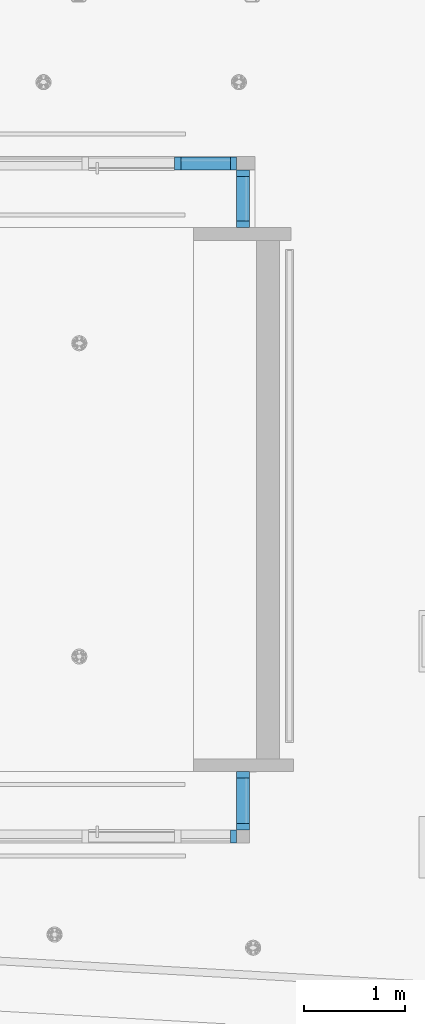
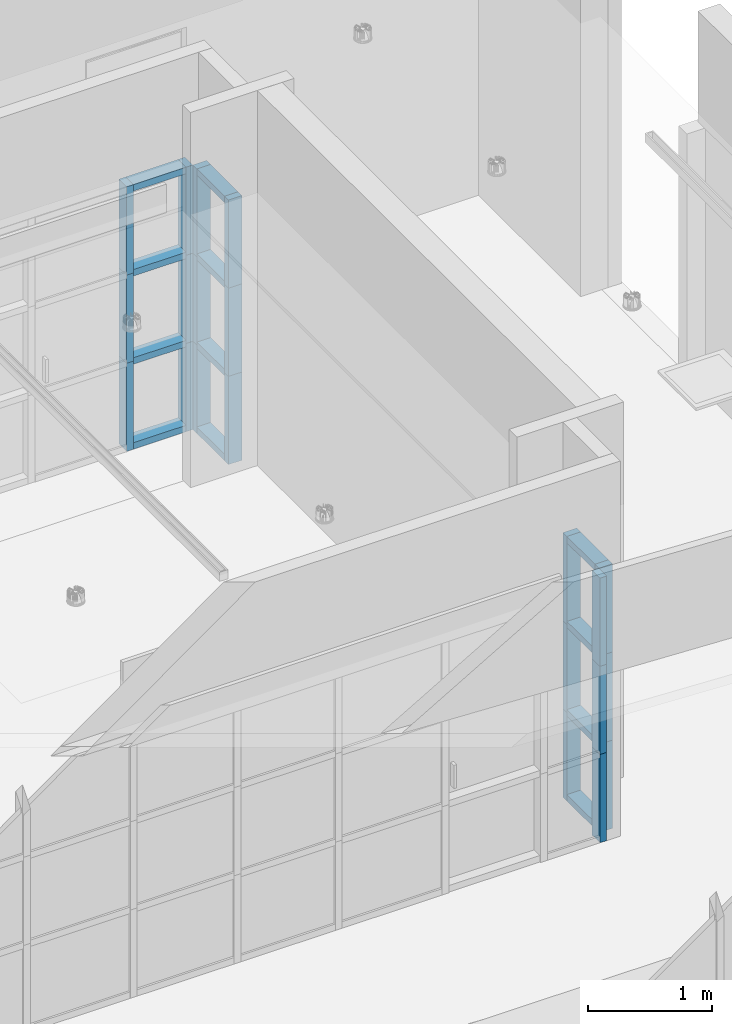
# One storey, part 10 of 108: 33 members, 4 elements without a shape of their own.
"""IFC4 building model written with IfcOpenShell, lengths in feet."""

from ifc_helpers import new_model, entity, si_unit, converted_unit, derived_unit, direction, frame, origin, origin_2d_with_axis, place, context, subcontext, project, spatial, rectangle, extrude, source, transform, mapped, material, material_profile, profile_set, profile_usage, type_object, type_shapes, element, aggregate, save


model = new_model("IFC4")

# Units and contexts
model_context = context("Model", 3, precision=0.0001, world=origin(), true_north=direction((6.12303176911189e-17, 1.0)))
body_context = subcontext(model_context, "Body", "Model", "MODEL_VIEW")
ifc_project = project(units=[converted_unit("LENGTHUNIT", "FOOT", entity("IfcRatioMeasure", 0.3048), si_unit("LENGTHUNIT", "METRE"), dimensions=[1, 0, 0, 0, 0, 0, 0]), converted_unit("AREAUNIT", "SQUARE FOOT", entity("IfcRatioMeasure", 0.09290304), si_unit("AREAUNIT", "SQUARE_METRE"), dimensions=[2, 0, 0, 0, 0, 0, 0]), converted_unit("VOLUMEUNIT", "CUBIC FOOT", entity("IfcRatioMeasure", 0.028316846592), si_unit("VOLUMEUNIT", "CUBIC_METRE"), dimensions=[3, 0, 0, 0, 0, 0, 0]), converted_unit("PLANEANGLEUNIT", "DEGREE", entity("IfcRatioMeasure", 0.0174532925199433), si_unit("PLANEANGLEUNIT", "RADIAN"), dimensions=[0, 0, 0, 0, 0, 0, 0]), si_unit("MASSUNIT", "GRAM", prefix="KILO"), derived_unit("MASSDENSITYUNIT", [(si_unit("MASSUNIT", "GRAM", prefix="KILO"), 1), (si_unit("LENGTHUNIT", "METRE"), -3)]), si_unit("TIMEUNIT", "SECOND"), si_unit("FREQUENCYUNIT", "HERTZ"), si_unit("THERMODYNAMICTEMPERATUREUNIT", "DEGREE_CELSIUS"), derived_unit("THERMALTRANSMITTANCEUNIT", [(si_unit("MASSUNIT", "GRAM", prefix="KILO"), 1), (si_unit("THERMODYNAMICTEMPERATUREUNIT", "KELVIN"), -1), (si_unit("TIMEUNIT", "SECOND"), -3)]), derived_unit("VOLUMETRICFLOWRATEUNIT", [(si_unit("LENGTHUNIT", "METRE"), 3), (si_unit("TIMEUNIT", "SECOND"), -1)]), si_unit("ELECTRICCURRENTUNIT", "AMPERE"), si_unit("ELECTRICVOLTAGEUNIT", "VOLT"), si_unit("POWERUNIT", "WATT"), si_unit("FORCEUNIT", "NEWTON"), si_unit("ILLUMINANCEUNIT", "LUX"), si_unit("LUMINOUSFLUXUNIT", "LUMEN"), si_unit("LUMINOUSINTENSITYUNIT", "CANDELA"), derived_unit("USERDEFINED", [(si_unit("MASSUNIT", "GRAM", prefix="KILO"), -1), (si_unit("LENGTHUNIT", "METRE"), -2), (si_unit("TIMEUNIT", "SECOND"), 3), (si_unit("LUMINOUSFLUXUNIT", "LUMEN"), 1)]), derived_unit("LINEARVELOCITYUNIT", [(si_unit("LENGTHUNIT", "METRE"), 1), (si_unit("TIMEUNIT", "SECOND"), -1)]), si_unit("PRESSUREUNIT", "PASCAL"), derived_unit("USERDEFINED", [(si_unit("LENGTHUNIT", "METRE"), -2), (si_unit("MASSUNIT", "GRAM", prefix="KILO"), 1), (si_unit("TIMEUNIT", "SECOND"), -2)])], contexts=[model_context])

# Site, building, storey
site_placement = place(None, origin())
site = spatial("IfcSite", under=ifc_project, at=site_placement, Name="Default", CompositionType="ELEMENT")
building_placement = place(site_placement, origin())
building = spatial("IfcBuilding", under=site, at=building_placement, CompositionType="ELEMENT")
storey_placement = place(building_placement, frame((0.0, 0.0, 168.0)))
storey = spatial("IfcBuildingStorey", under=building, at=storey_placement, Name="Level 15", CompositionType="ELEMENT", Elevation=168.0)

# Curtain wall, members
curtain_wall_type = type_object("IfcCurtainWallType", Name="Curtain Wall:Storefront 02", PredefinedType="NOTDEFINED")
curtain_wall_1_placement = place(storey_placement, frame((0.0, 0.0, -168.0)))
curtain_wall_1 = element("IfcCurtainWall", 1, at=curtain_wall_1_placement, inside=storey, type_object=curtain_wall_type, Name="Curtain Wall:Storefront 02", ObjectType="Curtain Wall:Storefront 02", PredefinedType="NOTDEFINED")
ifc_material = material(Name="Aluminum", Category="Metal")
ifc_material_profile = material_profile(ifc_material, rectangle(XDim=0.416666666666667, YDim=0.208333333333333, at=origin_2d_with_axis()), Name="2.5\" x 5\" rectangular")
ifc_profile_set = profile_set([ifc_material_profile], Name="2.5\" x 5\" rectangular")
ifc_profile_usage_1 = profile_usage(ifc_profile_set)
member_type_1 = type_object("IfcMemberType", Name="2.5\" x 5\" rectangular", PredefinedType="MEMBER", material=ifc_profile_set)
shared_shape_1 = source(origin(), body_context, "Body", "SweptSolid", [
    extrude(rectangle(XDim=0.416666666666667, YDim=0.208333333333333, at=origin_2d_with_axis()), frame((-0.104166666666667, 0.0, -1.47864472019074), z_axis=(0.0, 0.0, 1.0), x_axis=(0.0, -1.0, 0.0)), (0.0, 0.0, 1.0), 1.47864472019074),
])
type_shapes(member_type_1, [shared_shape_1])
member_1_placement = place(storey_placement, frame((48.8802019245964, -11.4636036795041, 8.52282482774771), z_axis=(0.0, -1.0, 0.0), x_axis=(0.0, 0.0, 1.0)))
member_1 = element("IfcMember", 2, at=member_1_placement, type_object=member_type_1, material=ifc_profile_usage_1, Name="Rectangular Mullion:2.5\" x 5\" rectangular", ObjectType="Rectangular Mullion:2.5\" x 5\" rectangular", PredefinedType="MULLION", context=body_context, shape_type="MappedRepresentation", body=[
    mapped(shared_shape_1, transform((0.0, 0.0, 0.0), scale=1.0)),
])
ifc_profile_usage_2 = profile_usage(ifc_profile_set)
member_type_2 = type_object("IfcMemberType", Name="2.5\" x 5\" rectangular", PredefinedType="MEMBER", material=ifc_profile_set)
shared_shape_2 = source(origin(), body_context, "Body", "SweptSolid", [
    extrude(rectangle(XDim=0.416666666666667, YDim=0.208333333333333, at=origin_2d_with_axis()), frame((-0.104166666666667, 0.0, -1.47864472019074), z_axis=(0.0, 0.0, 1.0), x_axis=(0.0, -1.0, 0.0)), (0.0, 0.0, 1.0), 1.47864472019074),
])
type_shapes(member_type_2, [shared_shape_2])
member_2_placement = place(storey_placement, frame((48.8802019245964, -9.98495895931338, 0.0), z_axis=(0.0, 1.0, 0.0), x_axis=(0.0, 0.0, -1.0)))
member_2 = element("IfcMember", 3, at=member_2_placement, type_object=member_type_2, material=ifc_profile_usage_2, Name="Rectangular Mullion:2.5\" x 5\" rectangular", ObjectType="Rectangular Mullion:2.5\" x 5\" rectangular", PredefinedType="MULLION", context=body_context, shape_type="MappedRepresentation", body=[
    mapped(shared_shape_2, transform((0.0, 0.0, 0.0), scale=1.0)),
])
ifc_profile_usage_3 = profile_usage(ifc_profile_set)
member_type_3 = type_object("IfcMemberType", Name="2.5\" x 5\" rectangular", PredefinedType="MEMBER", material=ifc_profile_set)
shared_shape_3 = source(origin(), body_context, "Body", "SweptSolid", [
    extrude(rectangle(XDim=0.416666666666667, YDim=0.208333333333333, at=origin_2d_with_axis()), frame((-0.104166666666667, 0.0, -2.84094160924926), z_axis=(0.0, 0.0, 1.0), x_axis=(0.0, -1.0, 0.0)), (0.0, 0.0, 1.0), 2.84094160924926),
])
type_shapes(member_type_3, [shared_shape_3])
member_3_placement = place(storey_placement, frame((48.8802019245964, -11.6719370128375, 0.0), z_axis=(0.0, 0.0, -1.0), x_axis=(0.0, -1.0, 0.0)))
member_3 = element("IfcMember", 4, at=member_3_placement, type_object=member_type_3, material=ifc_profile_usage_3, Name="Rectangular Mullion:2.5\" x 5\" rectangular", ObjectType="Rectangular Mullion:2.5\" x 5\" rectangular", PredefinedType="MULLION", context=body_context, shape_type="MappedRepresentation", body=[
    mapped(shared_shape_3, transform((0.0, 0.0, 0.0), scale=1.0)),
])
ifc_profile_usage_4 = profile_usage(ifc_profile_set)
member_type_4 = type_object("IfcMemberType", Name="2.5\" x 5\" rectangular", PredefinedType="MEMBER", material=ifc_profile_set)
shared_shape_4 = source(origin(), body_context, "Body", "SweptSolid", [
    extrude(rectangle(XDim=0.416666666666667, YDim=0.208333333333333, at=origin_2d_with_axis()), frame((-0.104166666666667, 0.0, -2.84094160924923), z_axis=(0.0, 0.0, 1.0), x_axis=(0.0, -1.0, 0.0)), (0.0, 0.0, 1.0), 2.84094160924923),
])
type_shapes(member_type_4, [shared_shape_4])
member_4_placement = place(storey_placement, frame((48.8802019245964, -9.77662562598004, 8.52282482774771), z_axis=(0.0, 0.0, 1.0), x_axis=(0.0, 1.0, 0.0)))
member_4 = element("IfcMember", 5, at=member_4_placement, type_object=member_type_4, material=ifc_profile_usage_4, Name="Rectangular Mullion:2.5\" x 5\" rectangular", ObjectType="Rectangular Mullion:2.5\" x 5\" rectangular", PredefinedType="MULLION", context=body_context, shape_type="MappedRepresentation", body=[
    mapped(shared_shape_4, transform((0.0, 0.0, 0.0), scale=1.0)),
])

# Curtain wall, member
curtain_wall_2_placement = place(storey_placement, frame((0.0, 0.0, -168.0)))
curtain_wall_2 = element("IfcCurtainWall", 6, at=curtain_wall_2_placement, inside=storey, type_object=curtain_wall_type, Name="Curtain Wall:Storefront 02", ObjectType="Curtain Wall:Storefront 02", PredefinedType="NOTDEFINED")
ifc_profile_usage_5 = profile_usage(ifc_profile_set)
member_5_placement = place(storey_placement, frame((48.671868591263, -11.8802703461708, 8.52282482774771)))
member_5 = element("IfcMember", 7, at=member_5_placement, type_object=member_type_4, material=ifc_profile_usage_5, Name="Rectangular Mullion:2.5\" x 5\" rectangular", ObjectType="Rectangular Mullion:2.5\" x 5\" rectangular", PredefinedType="MULLION", context=body_context, shape_type="MappedRepresentation", body=[
    mapped(shared_shape_4, transform((0.0, 0.0, 0.0), scale=1.0)),
])

# Member
ifc_profile_usage_6 = profile_usage(ifc_profile_set)
member_type_5 = type_object("IfcMemberType", Name="2.5\" x 5\" rectangular", PredefinedType="MEMBER", material=ifc_profile_set)
shared_shape_5 = source(origin(), body_context, "Body", "SweptSolid", [
    extrude(rectangle(XDim=0.416666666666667, YDim=0.208333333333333, at=origin_2d_with_axis()), frame((-0.104166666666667, 0.0, -2.84094160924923), z_axis=(0.0, 0.0, 1.0), x_axis=(0.0, -1.0, 0.0)), (0.0, 0.0, 1.0), 2.84094160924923),
])
type_shapes(member_type_5, [shared_shape_5])
member_6_placement = place(storey_placement, frame((48.8802019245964, -11.6719370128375, 5.68188321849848), z_axis=(0.0, 0.0, -1.0), x_axis=(0.0, -1.0, 0.0)))
member_6 = element("IfcMember", 8, at=member_6_placement, type_object=member_type_5, material=ifc_profile_usage_6, Name="Rectangular Mullion:2.5\" x 5\" rectangular", ObjectType="Rectangular Mullion:2.5\" x 5\" rectangular", PredefinedType="MULLION", context=body_context, shape_type="MappedRepresentation", body=[
    mapped(shared_shape_5, transform((0.0, 0.0, 0.0), scale=1.0)),
])

ifc_profile_usage_7 = profile_usage(ifc_profile_set)
member_type_6 = type_object("IfcMemberType", Name="2.5\" x 5\" rectangular", PredefinedType="MEMBER", material=ifc_profile_set)
shared_shape_6 = source(origin(), body_context, "Body", "SweptSolid", [
    extrude(rectangle(XDim=0.416666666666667, YDim=0.208333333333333, at=origin_2d_with_axis()), frame((-0.104166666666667, 0.0, -2.84094160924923), z_axis=(0.0, 0.0, 1.0), x_axis=(0.0, -1.0, 0.0)), (0.0, 0.0, 1.0), 2.84094160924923),
])
type_shapes(member_type_6, [shared_shape_6])
member_7_placement = place(storey_placement, frame((48.8802019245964, -9.77662562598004, 5.68188321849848), z_axis=(0.0, 0.0, 1.0), x_axis=(0.0, 1.0, 0.0)))
member_7 = element("IfcMember", 9, at=member_7_placement, type_object=member_type_6, material=ifc_profile_usage_7, Name="Rectangular Mullion:2.5\" x 5\" rectangular", ObjectType="Rectangular Mullion:2.5\" x 5\" rectangular", PredefinedType="MULLION", context=body_context, shape_type="MappedRepresentation", body=[
    mapped(shared_shape_6, transform((0.0, 0.0, 0.0), scale=1.0)),
])

ifc_profile_usage_8 = profile_usage(ifc_profile_set)
member_8_placement = place(storey_placement, frame((48.671868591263, -11.8802703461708, 5.68188321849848)))
member_8 = element("IfcMember", 10, at=member_8_placement, type_object=member_type_6, material=ifc_profile_usage_8, Name="Rectangular Mullion:2.5\" x 5\" rectangular", ObjectType="Rectangular Mullion:2.5\" x 5\" rectangular", PredefinedType="MULLION", context=body_context, shape_type="MappedRepresentation", body=[
    mapped(shared_shape_6, transform((0.0, 0.0, 0.0), scale=1.0)),
])

ifc_profile_usage_9 = profile_usage(ifc_profile_set)
member_type_7 = type_object("IfcMemberType", Name="2.5\" x 5\" rectangular", PredefinedType="MEMBER", material=ifc_profile_set)
shared_shape_7 = source(origin(), body_context, "Body", "SweptSolid", [
    extrude(rectangle(XDim=0.416666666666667, YDim=0.208333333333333, at=origin_2d_with_axis()), frame((0.0, 0.0, -1.47864472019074), z_axis=(0.0, 0.0, 1.0), x_axis=(0.0, -1.0, 0.0)), (0.0, 0.0, 1.0), 1.47864472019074),
])
type_shapes(member_type_7, [shared_shape_7])
member_9_placement = place(storey_placement, frame((48.8802019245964, -11.4636036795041, 5.68188321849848), z_axis=(0.0, -1.0, 0.0), x_axis=(0.0, 0.0, 1.0)))
member_9 = element("IfcMember", 11, at=member_9_placement, type_object=member_type_7, material=ifc_profile_usage_9, Name="Rectangular Mullion:2.5\" x 5\" rectangular", ObjectType="Rectangular Mullion:2.5\" x 5\" rectangular", PredefinedType="MULLION", context=body_context, shape_type="MappedRepresentation", body=[
    mapped(shared_shape_7, transform((0.0, 0.0, 0.0), scale=1.0)),
])

ifc_profile_usage_10 = profile_usage(ifc_profile_set)
member_10_placement = place(storey_placement, frame((48.8802019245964, -11.4636036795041, 2.84094160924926), z_axis=(0.0, -1.0, 0.0), x_axis=(0.0, 0.0, 1.0)))
member_10 = element("IfcMember", 12, at=member_10_placement, type_object=member_type_7, material=ifc_profile_usage_10, Name="Rectangular Mullion:2.5\" x 5\" rectangular", ObjectType="Rectangular Mullion:2.5\" x 5\" rectangular", PredefinedType="MULLION", context=body_context, shape_type="MappedRepresentation", body=[
    mapped(shared_shape_7, transform((0.0, 0.0, 0.0), scale=1.0)),
])

ifc_profile_usage_11 = profile_usage(ifc_profile_set)
member_type_8 = type_object("IfcMemberType", Name="2.5\" x 5\" rectangular", PredefinedType="MEMBER", material=ifc_profile_set)
shared_shape_8 = source(origin(), body_context, "Body", "SweptSolid", [
    extrude(rectangle(XDim=0.416666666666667, YDim=0.208333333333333, at=origin_2d_with_axis()), frame((-0.104166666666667, 0.0, -2.84094160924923), z_axis=(0.0, 0.0, 1.0), x_axis=(0.0, -1.0, 0.0)), (0.0, 0.0, 1.0), 2.84094160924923),
])
type_shapes(member_type_8, [shared_shape_8])
member_11_placement = place(storey_placement, frame((48.8802019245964, -11.6719370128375, 2.84094160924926), z_axis=(0.0, 0.0, -1.0), x_axis=(0.0, -1.0, 0.0)))
member_11 = element("IfcMember", 13, at=member_11_placement, type_object=member_type_8, material=ifc_profile_usage_11, Name="Rectangular Mullion:2.5\" x 5\" rectangular", ObjectType="Rectangular Mullion:2.5\" x 5\" rectangular", PredefinedType="MULLION", context=body_context, shape_type="MappedRepresentation", body=[
    mapped(shared_shape_8, transform((0.0, 0.0, 0.0), scale=1.0)),
])

ifc_profile_usage_12 = profile_usage(ifc_profile_set)
member_type_9 = type_object("IfcMemberType", Name="2.5\" x 5\" rectangular", PredefinedType="MEMBER", material=ifc_profile_set)
shared_shape_9 = source(origin(), body_context, "Body", "SweptSolid", [
    extrude(rectangle(XDim=0.416666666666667, YDim=0.208333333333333, at=origin_2d_with_axis()), frame((-0.104166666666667, 0.0, -2.84094160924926), z_axis=(0.0, 0.0, 1.0), x_axis=(0.0, -1.0, 0.0)), (0.0, 0.0, 1.0), 2.84094160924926),
])
type_shapes(member_type_9, [shared_shape_9])
member_12_placement = place(storey_placement, frame((48.8802019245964, -9.77662562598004, 2.84094160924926), z_axis=(0.0, 0.0, 1.0), x_axis=(0.0, 1.0, 0.0)))
member_12 = element("IfcMember", 14, at=member_12_placement, type_object=member_type_9, material=ifc_profile_usage_12, Name="Rectangular Mullion:2.5\" x 5\" rectangular", ObjectType="Rectangular Mullion:2.5\" x 5\" rectangular", PredefinedType="MULLION", context=body_context, shape_type="MappedRepresentation", body=[
    mapped(shared_shape_9, transform((0.0, 0.0, 0.0), scale=1.0)),
])

aggregate(curtain_wall_1, [member_1, member_2, member_3, member_4, member_6, member_7, member_9, member_11, member_12, member_10])

ifc_profile_usage_13 = profile_usage(ifc_profile_set)
member_13_placement = place(storey_placement, frame((48.671868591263, -11.8802703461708, 2.84094160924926)))
member_13 = element("IfcMember", 15, at=member_13_placement, type_object=member_type_9, material=ifc_profile_usage_13, Name="Rectangular Mullion:2.5\" x 5\" rectangular", ObjectType="Rectangular Mullion:2.5\" x 5\" rectangular", PredefinedType="MULLION", context=body_context, shape_type="MappedRepresentation", body=[
    mapped(shared_shape_9, transform((0.0, 0.0, 0.0), scale=1.0)),
])

aggregate(curtain_wall_2, [member_5, member_8, member_13])

# Curtain wall, members
curtain_wall_3_placement = place(storey_placement, frame((0.0, 0.0, -168.0)))
curtain_wall_3 = element("IfcCurtainWall", 16, at=curtain_wall_3_placement, inside=storey, type_object=curtain_wall_type, Name="Curtain Wall:Storefront 02", ObjectType="Curtain Wall:Storefront 02", PredefinedType="NOTDEFINED")
ifc_profile_usage_14 = profile_usage(ifc_profile_set)
member_type_10 = type_object("IfcMemberType", Name="2.5\" x 5\" rectangular", PredefinedType="MEMBER", material=ifc_profile_set)
shared_shape_10 = source(origin(), body_context, "Body", "SweptSolid", [
    extrude(rectangle(XDim=0.416666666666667, YDim=0.208333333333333, at=origin_2d_with_axis()), frame((-0.104166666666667, 0.0, -1.45246849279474), z_axis=(0.0, 0.0, 1.0), x_axis=(0.0, -1.0, 0.0)), (0.0, 0.0, 1.0), 1.45246849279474),
])
type_shapes(member_type_10, [shared_shape_10])
member_14_placement = place(storey_placement, frame((48.8802019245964, 9.54398292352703, 8.52282482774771), z_axis=(0.0, 1.0, 0.0), x_axis=(0.0, 0.0, 1.0)))
member_14 = element("IfcMember", 17, at=member_14_placement, type_object=member_type_10, material=ifc_profile_usage_14, Name="Rectangular Mullion:2.5\" x 5\" rectangular", ObjectType="Rectangular Mullion:2.5\" x 5\" rectangular", PredefinedType="MULLION", context=body_context, shape_type="MappedRepresentation", body=[
    mapped(shared_shape_10, transform((0.0, 0.0, 0.0), scale=1.0)),
])
ifc_profile_usage_15 = profile_usage(ifc_profile_set)
member_type_11 = type_object("IfcMemberType", Name="2.5\" x 5\" rectangular", PredefinedType="MEMBER", material=ifc_profile_set)
shared_shape_11 = source(origin(), body_context, "Body", "SweptSolid", [
    extrude(rectangle(XDim=0.416666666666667, YDim=0.208333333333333, at=origin_2d_with_axis()), frame((-0.104166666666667, 0.0, -1.45246849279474), z_axis=(0.0, 0.0, 1.0), x_axis=(0.0, -1.0, 0.0)), (0.0, 0.0, 1.0), 1.45246849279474),
])
type_shapes(member_type_11, [shared_shape_11])
member_15_placement = place(storey_placement, frame((48.8802019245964, 8.09151443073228, 0.0), z_axis=(0.0, -1.0, 0.0), x_axis=(0.0, 0.0, -1.0)))
member_15 = element("IfcMember", 18, at=member_15_placement, type_object=member_type_11, material=ifc_profile_usage_15, Name="Rectangular Mullion:2.5\" x 5\" rectangular", ObjectType="Rectangular Mullion:2.5\" x 5\" rectangular", PredefinedType="MULLION", context=body_context, shape_type="MappedRepresentation", body=[
    mapped(shared_shape_11, transform((0.0, 0.0, 0.0), scale=1.0)),
])
ifc_profile_usage_16 = profile_usage(ifc_profile_set)
member_type_12 = type_object("IfcMemberType", Name="2.5\" x 5\" rectangular", PredefinedType="MEMBER", material=ifc_profile_set)
shared_shape_12 = source(origin(), body_context, "Body", "SweptSolid", [
    extrude(rectangle(XDim=0.416666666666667, YDim=0.208333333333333, at=origin_2d_with_axis()), frame((-0.104166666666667, 0.0, -2.84094160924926), z_axis=(0.0, 0.0, 1.0), x_axis=(0.0, -1.0, 0.0)), (0.0, 0.0, 1.0), 2.84094160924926),
])
type_shapes(member_type_12, [shared_shape_12])
member_16_placement = place(storey_placement, frame((48.8802019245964, 9.75231625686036, 0.0), z_axis=(0.0, 0.0, -1.0), x_axis=(0.0, 1.0, 0.0)))
member_16 = element("IfcMember", 19, at=member_16_placement, type_object=member_type_12, material=ifc_profile_usage_16, Name="Rectangular Mullion:2.5\" x 5\" rectangular", ObjectType="Rectangular Mullion:2.5\" x 5\" rectangular", PredefinedType="MULLION", context=body_context, shape_type="MappedRepresentation", body=[
    mapped(shared_shape_12, transform((0.0, 0.0, 0.0), scale=1.0)),
])
ifc_profile_usage_17 = profile_usage(ifc_profile_set)
member_type_13 = type_object("IfcMemberType", Name="2.5\" x 5\" rectangular", PredefinedType="MEMBER", material=ifc_profile_set)
shared_shape_13 = source(origin(), body_context, "Body", "SweptSolid", [
    extrude(rectangle(XDim=0.416666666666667, YDim=0.208333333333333, at=origin_2d_with_axis()), frame((-0.104166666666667, 0.0, -2.84094160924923), z_axis=(0.0, 0.0, 1.0), x_axis=(0.0, -1.0, 0.0)), (0.0, 0.0, 1.0), 2.84094160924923),
])
type_shapes(member_type_13, [shared_shape_13])
member_17_placement = place(storey_placement, frame((48.8802019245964, 7.88318109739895, 8.52282482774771), z_axis=(0.0, 0.0, 1.0), x_axis=(0.0, -1.0, 0.0)))
member_17 = element("IfcMember", 20, at=member_17_placement, type_object=member_type_13, material=ifc_profile_usage_17, Name="Rectangular Mullion:2.5\" x 5\" rectangular", ObjectType="Rectangular Mullion:2.5\" x 5\" rectangular", PredefinedType="MULLION", context=body_context, shape_type="MappedRepresentation", body=[
    mapped(shared_shape_13, transform((0.0, 0.0, 0.0), scale=1.0)),
])

# Curtain wall, member
curtain_wall_4_placement = place(storey_placement, frame((0.0, 0.0, -168.0)))
curtain_wall_4 = element("IfcCurtainWall", 21, at=curtain_wall_4_placement, inside=storey, type_object=curtain_wall_type, Name="Curtain Wall:Storefront 02", ObjectType="Curtain Wall:Storefront 02", PredefinedType="NOTDEFINED")
ifc_profile_usage_18 = profile_usage(ifc_profile_set)
member_18_placement = place(storey_placement, frame((48.6718685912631, 9.9606495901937, 8.52282482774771)))
member_18 = element("IfcMember", 22, at=member_18_placement, type_object=member_type_13, material=ifc_profile_usage_18, Name="Rectangular Mullion:2.5\" x 5\" rectangular", ObjectType="Rectangular Mullion:2.5\" x 5\" rectangular", PredefinedType="MULLION", context=body_context, shape_type="MappedRepresentation", body=[
    mapped(shared_shape_13, transform((0.0, 0.0, 0.0), scale=1.0)),
])

# Member
ifc_profile_usage_19 = profile_usage(ifc_profile_set)
member_type_14 = type_object("IfcMemberType", Name="2.5\" x 5\" rectangular", PredefinedType="MEMBER", material=ifc_profile_set)
shared_shape_14 = source(origin(), body_context, "Body", "SweptSolid", [
    extrude(rectangle(XDim=0.416666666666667, YDim=0.208333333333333, at=origin_2d_with_axis()), frame((-0.104166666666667, 0.0, -2.84094160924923), z_axis=(0.0, 0.0, 1.0), x_axis=(0.0, -1.0, 0.0)), (0.0, 0.0, 1.0), 2.84094160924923),
])
type_shapes(member_type_14, [shared_shape_14])
member_19_placement = place(storey_placement, frame((48.8802019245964, 9.75231625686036, 5.68188321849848), z_axis=(0.0, 0.0, -1.0), x_axis=(0.0, 1.0, 0.0)))
member_19 = element("IfcMember", 23, at=member_19_placement, type_object=member_type_14, material=ifc_profile_usage_19, Name="Rectangular Mullion:2.5\" x 5\" rectangular", ObjectType="Rectangular Mullion:2.5\" x 5\" rectangular", PredefinedType="MULLION", context=body_context, shape_type="MappedRepresentation", body=[
    mapped(shared_shape_14, transform((0.0, 0.0, 0.0), scale=1.0)),
])

ifc_profile_usage_20 = profile_usage(ifc_profile_set)
member_type_15 = type_object("IfcMemberType", Name="2.5\" x 5\" rectangular", PredefinedType="MEMBER", material=ifc_profile_set)
shared_shape_15 = source(origin(), body_context, "Body", "SweptSolid", [
    extrude(rectangle(XDim=0.416666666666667, YDim=0.208333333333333, at=origin_2d_with_axis()), frame((-0.104166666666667, 0.0, -2.84094160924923), z_axis=(0.0, 0.0, 1.0), x_axis=(0.0, -1.0, 0.0)), (0.0, 0.0, 1.0), 2.84094160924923),
])
type_shapes(member_type_15, [shared_shape_15])
member_20_placement = place(storey_placement, frame((48.8802019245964, 7.88318109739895, 5.68188321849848), z_axis=(0.0, 0.0, 1.0), x_axis=(0.0, -1.0, 0.0)))
member_20 = element("IfcMember", 24, at=member_20_placement, type_object=member_type_15, material=ifc_profile_usage_20, Name="Rectangular Mullion:2.5\" x 5\" rectangular", ObjectType="Rectangular Mullion:2.5\" x 5\" rectangular", PredefinedType="MULLION", context=body_context, shape_type="MappedRepresentation", body=[
    mapped(shared_shape_15, transform((0.0, 0.0, 0.0), scale=1.0)),
])

ifc_profile_usage_21 = profile_usage(ifc_profile_set)
member_21_placement = place(storey_placement, frame((48.6718685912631, 9.9606495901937, 5.68188321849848)))
member_21 = element("IfcMember", 25, at=member_21_placement, type_object=member_type_15, material=ifc_profile_usage_21, Name="Rectangular Mullion:2.5\" x 5\" rectangular", ObjectType="Rectangular Mullion:2.5\" x 5\" rectangular", PredefinedType="MULLION", context=body_context, shape_type="MappedRepresentation", body=[
    mapped(shared_shape_15, transform((0.0, 0.0, 0.0), scale=1.0)),
])

ifc_profile_usage_22 = profile_usage(ifc_profile_set)
member_type_16 = type_object("IfcMemberType", Name="2.5\" x 5\" rectangular", PredefinedType="MEMBER", material=ifc_profile_set)
shared_shape_16 = source(origin(), body_context, "Body", "SweptSolid", [
    extrude(rectangle(XDim=0.416666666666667, YDim=0.208333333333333, at=origin_2d_with_axis()), frame((0.0, 0.0, -1.45246849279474), z_axis=(0.0, 0.0, 1.0), x_axis=(0.0, -1.0, 0.0)), (0.0, 0.0, 1.0), 1.45246849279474),
])
type_shapes(member_type_16, [shared_shape_16])
member_22_placement = place(storey_placement, frame((48.8802019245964, 9.54398292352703, 5.68188321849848), z_axis=(0.0, 1.0, 0.0), x_axis=(0.0, 0.0, 1.0)))
member_22 = element("IfcMember", 26, at=member_22_placement, type_object=member_type_16, material=ifc_profile_usage_22, Name="Rectangular Mullion:2.5\" x 5\" rectangular", ObjectType="Rectangular Mullion:2.5\" x 5\" rectangular", PredefinedType="MULLION", context=body_context, shape_type="MappedRepresentation", body=[
    mapped(shared_shape_16, transform((0.0, 0.0, 0.0), scale=1.0)),
])

ifc_profile_usage_23 = profile_usage(ifc_profile_set)
member_23_placement = place(storey_placement, frame((48.8802019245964, 9.54398292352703, 2.84094160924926), z_axis=(0.0, 1.0, 0.0), x_axis=(0.0, 0.0, 1.0)))
member_23 = element("IfcMember", 27, at=member_23_placement, type_object=member_type_16, material=ifc_profile_usage_23, Name="Rectangular Mullion:2.5\" x 5\" rectangular", ObjectType="Rectangular Mullion:2.5\" x 5\" rectangular", PredefinedType="MULLION", context=body_context, shape_type="MappedRepresentation", body=[
    mapped(shared_shape_16, transform((0.0, 0.0, 0.0), scale=1.0)),
])

ifc_profile_usage_24 = profile_usage(ifc_profile_set)
member_type_17 = type_object("IfcMemberType", Name="2.5\" x 5\" rectangular", PredefinedType="MEMBER", material=ifc_profile_set)
shared_shape_17 = source(origin(), body_context, "Body", "SweptSolid", [
    extrude(rectangle(XDim=0.416666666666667, YDim=0.208333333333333, at=origin_2d_with_axis()), frame((-0.104166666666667, 0.0, -2.84094160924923), z_axis=(0.0, 0.0, 1.0), x_axis=(0.0, -1.0, 0.0)), (0.0, 0.0, 1.0), 2.84094160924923),
])
type_shapes(member_type_17, [shared_shape_17])
member_24_placement = place(storey_placement, frame((48.8802019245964, 9.75231625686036, 2.84094160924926), z_axis=(0.0, 0.0, -1.0), x_axis=(0.0, 1.0, 0.0)))
member_24 = element("IfcMember", 28, at=member_24_placement, type_object=member_type_17, material=ifc_profile_usage_24, Name="Rectangular Mullion:2.5\" x 5\" rectangular", ObjectType="Rectangular Mullion:2.5\" x 5\" rectangular", PredefinedType="MULLION", context=body_context, shape_type="MappedRepresentation", body=[
    mapped(shared_shape_17, transform((0.0, 0.0, 0.0), scale=1.0)),
])

ifc_profile_usage_25 = profile_usage(ifc_profile_set)
member_type_18 = type_object("IfcMemberType", Name="2.5\" x 5\" rectangular", PredefinedType="MEMBER", material=ifc_profile_set)
shared_shape_18 = source(origin(), body_context, "Body", "SweptSolid", [
    extrude(rectangle(XDim=0.416666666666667, YDim=0.208333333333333, at=origin_2d_with_axis()), frame((-0.104166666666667, 0.0, -2.84094160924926), z_axis=(0.0, 0.0, 1.0), x_axis=(0.0, -1.0, 0.0)), (0.0, 0.0, 1.0), 2.84094160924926),
])
type_shapes(member_type_18, [shared_shape_18])
member_25_placement = place(storey_placement, frame((48.8802019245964, 7.88318109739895, 2.84094160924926), z_axis=(0.0, 0.0, 1.0), x_axis=(0.0, -1.0, 0.0)))
member_25 = element("IfcMember", 29, at=member_25_placement, type_object=member_type_18, material=ifc_profile_usage_25, Name="Rectangular Mullion:2.5\" x 5\" rectangular", ObjectType="Rectangular Mullion:2.5\" x 5\" rectangular", PredefinedType="MULLION", context=body_context, shape_type="MappedRepresentation", body=[
    mapped(shared_shape_18, transform((0.0, 0.0, 0.0), scale=1.0)),
])

aggregate(curtain_wall_3, [member_14, member_15, member_16, member_17, member_19, member_20, member_22, member_24, member_25, member_23])

ifc_profile_usage_26 = profile_usage(ifc_profile_set)
member_26_placement = place(storey_placement, frame((48.6718685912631, 9.9606495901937, 2.84094160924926)))
member_26 = element("IfcMember", 30, at=member_26_placement, type_object=member_type_18, material=ifc_profile_usage_26, Name="Rectangular Mullion:2.5\" x 5\" rectangular", ObjectType="Rectangular Mullion:2.5\" x 5\" rectangular", PredefinedType="MULLION", context=body_context, shape_type="MappedRepresentation", body=[
    mapped(shared_shape_18, transform((0.0, 0.0, 0.0), scale=1.0)),
])

ifc_profile_usage_27 = profile_usage(ifc_profile_set)
member_type_19 = type_object("IfcMemberType", Name="2.5\" x 5\" rectangular", PredefinedType="MEMBER", material=ifc_profile_set)
shared_shape_19 = source(origin(), body_context, "Body", "SweptSolid", [
    extrude(rectangle(XDim=0.416666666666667, YDim=0.208333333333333, at=origin_2d_with_axis()), frame((-0.104166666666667, 0.0, -1.60416666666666), z_axis=(0.0, 0.0, 1.0), x_axis=(0.0, -1.0, 0.0)), (0.0, 0.0, 1.0), 1.60416666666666),
])
type_shapes(member_type_19, [shared_shape_19])
member_27_placement = place(storey_placement, frame((48.4635352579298, 9.9606495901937, 0.0), z_axis=(1.0, 0.0, 0.0), x_axis=(0.0, 0.0, -1.0)))
member_27 = element("IfcMember", 31, at=member_27_placement, type_object=member_type_19, material=ifc_profile_usage_27, Name="Rectangular Mullion:2.5\" x 5\" rectangular", ObjectType="Rectangular Mullion:2.5\" x 5\" rectangular", PredefinedType="MULLION", context=body_context, shape_type="MappedRepresentation", body=[
    mapped(shared_shape_19, transform((0.0, 0.0, 0.0), scale=1.0)),
])

ifc_profile_usage_28 = profile_usage(ifc_profile_set)
member_type_20 = type_object("IfcMemberType", Name="2.5\" x 5\" rectangular", PredefinedType="MEMBER", material=ifc_profile_set)
shared_shape_20 = source(origin(), body_context, "Body", "SweptSolid", [
    extrude(rectangle(XDim=0.416666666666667, YDim=0.208333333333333, at=origin_2d_with_axis()), frame((0.0, 0.0, -2.84094160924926), z_axis=(0.0, 0.0, 1.0), x_axis=(0.0, -1.0, 0.0)), (0.0, 0.0, 1.0), 2.84094160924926),
])
type_shapes(member_type_20, [shared_shape_20])
member_28_placement = place(storey_placement, frame((46.7552019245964, 9.9606495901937, 0.0), z_axis=(0.0, 0.0, -1.0), x_axis=(-1.0, 0.0, 0.0)))
member_28 = element("IfcMember", 32, at=member_28_placement, type_object=member_type_20, material=ifc_profile_usage_28, Name="Rectangular Mullion:2.5\" x 5\" rectangular", ObjectType="Rectangular Mullion:2.5\" x 5\" rectangular", PredefinedType="MULLION", context=body_context, shape_type="MappedRepresentation", body=[
    mapped(shared_shape_20, transform((0.0, 0.0, 0.0), scale=1.0)),
])

ifc_profile_usage_29 = profile_usage(ifc_profile_set)
member_type_21 = type_object("IfcMemberType", Name="2.5\" x 5\" rectangular", PredefinedType="MEMBER", material=ifc_profile_set)
shared_shape_21 = source(origin(), body_context, "Body", "SweptSolid", [
    extrude(rectangle(XDim=0.416666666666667, YDim=0.208333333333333, at=origin_2d_with_axis()), frame((-0.104166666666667, 0.0, -1.60416666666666), z_axis=(0.0, 0.0, 1.0), x_axis=(0.0, -1.0, 0.0)), (0.0, 0.0, 1.0), 1.60416666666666),
])
type_shapes(member_type_21, [shared_shape_21])
member_29_placement = place(storey_placement, frame((46.8593685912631, 9.9606495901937, 8.52282482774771), z_axis=(-1.0, 0.0, 0.0), x_axis=(0.0, 0.0, 1.0)))
member_29 = element("IfcMember", 33, at=member_29_placement, type_object=member_type_21, material=ifc_profile_usage_29, Name="Rectangular Mullion:2.5\" x 5\" rectangular", ObjectType="Rectangular Mullion:2.5\" x 5\" rectangular", PredefinedType="MULLION", context=body_context, shape_type="MappedRepresentation", body=[
    mapped(shared_shape_21, transform((0.0, 0.0, 0.0), scale=1.0)),
])

ifc_profile_usage_30 = profile_usage(ifc_profile_set)
member_type_22 = type_object("IfcMemberType", Name="2.5\" x 5\" rectangular", PredefinedType="MEMBER", material=ifc_profile_set)
shared_shape_22 = source(origin(), body_context, "Body", "SweptSolid", [
    extrude(rectangle(XDim=0.416666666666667, YDim=0.208333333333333, at=origin_2d_with_axis()), frame((0.0, 0.0, -1.60416666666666), z_axis=(0.0, 0.0, 1.0), x_axis=(0.0, -1.0, 0.0)), (0.0, 0.0, 1.0), 1.60416666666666),
])
type_shapes(member_type_22, [shared_shape_22])
member_30_placement = place(storey_placement, frame((46.8593685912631, 9.9606495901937, 5.68188321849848), z_axis=(-1.0, 0.0, 0.0), x_axis=(0.0, 0.0, 1.0)))
member_30 = element("IfcMember", 34, at=member_30_placement, type_object=member_type_22, material=ifc_profile_usage_30, Name="Rectangular Mullion:2.5\" x 5\" rectangular", ObjectType="Rectangular Mullion:2.5\" x 5\" rectangular", PredefinedType="MULLION", context=body_context, shape_type="MappedRepresentation", body=[
    mapped(shared_shape_22, transform((0.0, 0.0, 0.0), scale=1.0)),
])

ifc_profile_usage_31 = profile_usage(ifc_profile_set)
member_31_placement = place(storey_placement, frame((46.8593685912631, 9.9606495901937, 2.84094160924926), z_axis=(-1.0, 0.0, 0.0), x_axis=(0.0, 0.0, 1.0)))
member_31 = element("IfcMember", 35, at=member_31_placement, type_object=member_type_22, material=ifc_profile_usage_31, Name="Rectangular Mullion:2.5\" x 5\" rectangular", ObjectType="Rectangular Mullion:2.5\" x 5\" rectangular", PredefinedType="MULLION", context=body_context, shape_type="MappedRepresentation", body=[
    mapped(shared_shape_22, transform((0.0, 0.0, 0.0), scale=1.0)),
])

ifc_profile_usage_32 = profile_usage(ifc_profile_set)
member_type_23 = type_object("IfcMemberType", Name="2.5\" x 5\" rectangular", PredefinedType="MEMBER", material=ifc_profile_set)
shared_shape_23 = source(origin(), body_context, "Body", "SweptSolid", [
    extrude(rectangle(XDim=0.416666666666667, YDim=0.208333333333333, at=origin_2d_with_axis()), frame((0.0, 0.0, -2.84094160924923), z_axis=(0.0, 0.0, 1.0), x_axis=(0.0, -1.0, 0.0)), (0.0, 0.0, 1.0), 2.84094160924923),
])
type_shapes(member_type_23, [shared_shape_23])
member_32_placement = place(storey_placement, frame((46.7552019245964, 9.9606495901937, 5.68188321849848), z_axis=(0.0, 0.0, -1.0), x_axis=(-1.0, 0.0, 0.0)))
member_32 = element("IfcMember", 36, at=member_32_placement, type_object=member_type_23, material=ifc_profile_usage_32, Name="Rectangular Mullion:2.5\" x 5\" rectangular", ObjectType="Rectangular Mullion:2.5\" x 5\" rectangular", PredefinedType="MULLION", context=body_context, shape_type="MappedRepresentation", body=[
    mapped(shared_shape_23, transform((0.0, 0.0, 0.0), scale=1.0)),
])

ifc_profile_usage_33 = profile_usage(ifc_profile_set)
member_type_24 = type_object("IfcMemberType", Name="2.5\" x 5\" rectangular", PredefinedType="MEMBER", material=ifc_profile_set)
shared_shape_24 = source(origin(), body_context, "Body", "SweptSolid", [
    extrude(rectangle(XDim=0.416666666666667, YDim=0.208333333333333, at=origin_2d_with_axis()), frame((0.0, 0.0, -2.84094160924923), z_axis=(0.0, 0.0, 1.0), x_axis=(0.0, -1.0, 0.0)), (0.0, 0.0, 1.0), 2.84094160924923),
])
type_shapes(member_type_24, [shared_shape_24])
member_33_placement = place(storey_placement, frame((46.7552019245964, 9.9606495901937, 2.84094160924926), z_axis=(0.0, 0.0, -1.0), x_axis=(-1.0, 0.0, 0.0)))
member_33 = element("IfcMember", 37, at=member_33_placement, type_object=member_type_24, material=ifc_profile_usage_33, Name="Rectangular Mullion:2.5\" x 5\" rectangular", ObjectType="Rectangular Mullion:2.5\" x 5\" rectangular", PredefinedType="MULLION", context=body_context, shape_type="MappedRepresentation", body=[
    mapped(shared_shape_24, transform((0.0, 0.0, 0.0), scale=1.0)),
])

aggregate(curtain_wall_4, [member_27, member_18, member_29, member_28, member_21, member_30, member_32, member_26, member_31, member_33])

save(model, "model.ifc")
